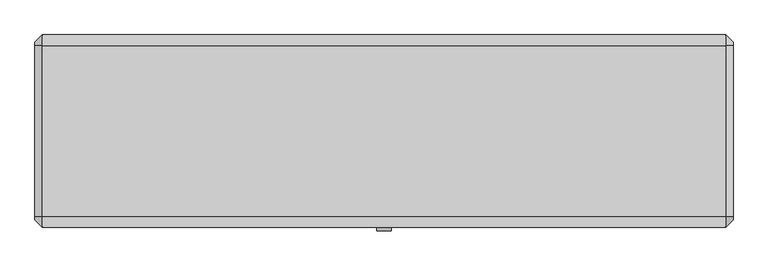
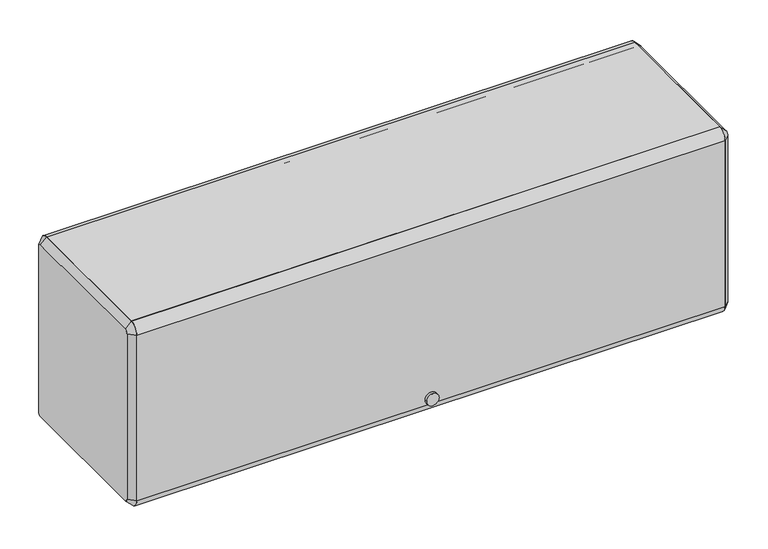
"""IFC4 building model written with IfcOpenShell, lengths in millimetres: furniture geometry."""

from ifc_helpers import new_model, si_unit, point, frame, frame_2d, origin, place, context, project, spatial, polyline, circle_curve, trimmed, segment, composite_curve, outline, extrude, source, transform, mapped, element, save
from ifc_brep_helpers import plane_surface, revolved_surface, advanced_brep


def furniture_23a4858b(model_context):
    return source(origin(), model_context, "Body", "SolidModel", [
        extrude(outline(composite_curve([segment(polyline([(-136.525, 1754.59898), (-136.525, 1767.29898), (161.925, 1767.29898)]), True, "CONTINUOUS"), segment(trimmed(circle_curve(frame_2d((161.925, 1748.24898)), 19.05), [point((161.925, 1767.29898))], [point((180.975, 1748.24898))], False, "CARTESIAN"), True, "CONTINUOUS"), segment(polyline([(180.975, 1748.24898), (168.275, 1748.24898)]), True, "CONTINUOUS"), segment(trimmed(circle_curve(frame_2d((161.925, 1748.24898)), 6.35), [point((168.275, 1748.24898))], [point((161.925, 1754.59898))], True, "CARTESIAN"), True, "CONTINUOUS"), segment(polyline([(161.925, 1754.59898), (-136.525, 1754.59898)]), True, "CONTINUOUS")], self_intersect=False)), frame((-596.9, 0.0, 0.0), z_axis=(1.0, 0.0, 0.0), x_axis=(0.0, 1.0, 0.0)), (0.0, 0.0, 1.0), 1193.8),
        extrude(outline(composite_curve([segment(trimmed(circle_curve(frame_2d((-136.525, 1748.24898)), 19.05), [point((-155.575, 1748.24898))], [point((-136.525, 1767.29898))], False, "CARTESIAN"), True, "CONTINUOUS"), segment(polyline([(-136.525, 1767.29898), (-136.525, 1754.59898)]), True, "CONTINUOUS"), segment(trimmed(circle_curve(frame_2d((-136.525, 1748.24898)), 6.35), [point((-136.525, 1754.59898))], [point((-142.875, 1748.24898))], True, "CARTESIAN"), True, "CONTINUOUS"), segment(polyline([(-142.875, 1748.24898), (-142.875, 1392.64898)]), True, "CONTINUOUS"), segment(trimmed(circle_curve(frame_2d((-136.525, 1392.64898)), 6.35), [point((-142.875, 1392.64898))], [point((-136.525, 1386.29898))], True, "CARTESIAN"), True, "CONTINUOUS"), segment(polyline([(-136.525, 1386.29898), (-136.525, 1373.59898)]), True, "CONTINUOUS"), segment(trimmed(circle_curve(frame_2d((-136.525, 1392.64898)), 19.05), [point((-136.525, 1373.59898))], [point((-155.575, 1392.64898))], False, "CARTESIAN"), True, "CONTINUOUS"), segment(polyline([(-155.575, 1392.64898), (-155.575, 1748.24898)]), True, "CONTINUOUS")], self_intersect=False)), frame((-596.9, 0.0, 0.0), z_axis=(1.0, 0.0, 0.0), x_axis=(0.0, 1.0, 0.0)), (0.0, 0.0, 1.0), 1193.8),
        extrude(outline(composite_curve([segment(trimmed(circle_curve(frame_2d((1405.3108706, 0.0201199)), 12.7253951), [point((1405.3108706, 12.745515))], [point((1405.3108706, -12.7052752))], False, "CARTESIAN"), True, "CONTINUOUS"), segment(trimmed(circle_curve(frame_2d((1405.3108706, 0.0201199)), 12.7253951), [point((1405.3108706, -12.7052752))], [point((1405.3108706, 12.745515))], False, "CARTESIAN"), True, "CONTINUOUS")], self_intersect=False)), frame((0.0, -161.925, 0.0), z_axis=(0.0, 1.0, 0.0), x_axis=(0.0, 0.0, 1.0)), (0.0, 0.0, 1.0), 6.35),
        extrude(outline(polyline([(-136.525, 1411.69898), (161.925, 1411.69898), (161.925, 1449.79898), (174.625, 1449.79898), (174.625, 1446.62398), (165.1, 1446.62398), (165.1, 1408.52398), (-133.35, 1408.52398), (-133.35, 1389.47398), (-136.525, 1389.47398), (-136.525, 1411.69898)])), frame((-596.9, 0.0, 0.0), z_axis=(1.0, 0.0, 0.0), x_axis=(0.0, 1.0, 0.0)), (0.0, 0.0, 1.0), 1193.8),
        advanced_brep(
        [(609.6, 161.925, 1754.59898), (609.6, -136.525, 1754.59898), (609.6, -142.875, 1748.24898), (609.6, -142.875, 1392.64898), (609.6, -136.525, 1386.29898), (609.6, 161.925, 1386.29898), (609.6, 168.275, 1392.64898), (609.6, 168.275, 1748.24898), (596.9, 161.925, 1767.29898), (596.9, 180.975, 1748.24898), (596.9, 180.975, 1392.64898), (596.9, 161.925, 1373.59898), (596.9, -136.525, 1373.59898), (596.9, -155.575, 1392.64898), (596.9, -155.575, 1748.24898), (596.9, -136.525, 1767.29898)],
        [
            (0, 1),
            (1, 2, circle_curve(frame((609.6, -136.525, 1748.24898), z_axis=(1.0, 6.493472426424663e-12, -6.5867311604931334e-12), x_axis=(6.586694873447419e-12, 0.0, 1.0)), 6.35)),
            (2, 3),
            (3, 4, circle_curve(frame((609.6, -136.525, 1392.64898), z_axis=(1.0, 3.3733016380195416e-12, 3.3892888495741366e-12), x_axis=(3.3733436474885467e-12, -1.0, 0.0)), 6.35)),
            (4, 5),
            (5, 6, circle_curve(frame((609.6, 161.925, 1392.64898), z_axis=(1.0, 3.37863070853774e-12, -3.3892888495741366e-12), x_axis=(-3.389358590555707e-12, 0.0, -1.0)), 6.35)),
            (6, 7),
            (7, 0, circle_curve(frame((609.6, 161.925, 1748.24898), z_axis=(1.0, 6.4828142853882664e-12, 6.394884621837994e-12), x_axis=(-6.482754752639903e-12, 1.0, 0.0)), 6.35)),
            (8, 9, circle_curve(frame((596.9, 161.925, 1748.24898), z_axis=(-1.0, -6.4828142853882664e-12, -6.394884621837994e-12), x_axis=(-6.482754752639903e-12, 1.0, 0.0)), 19.05)),
            (9, 10),
            (10, 11, circle_curve(frame((596.9, 161.925, 1392.64898), z_axis=(-1.0, -3.37863070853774e-12, 3.3892888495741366e-12), x_axis=(-3.389358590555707e-12, 0.0, -1.0)), 19.05)),
            (11, 12),
            (12, 13, circle_curve(frame((596.9, -136.525, 1392.64898), z_axis=(-1.0, -3.3733016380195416e-12, -3.3892888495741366e-12), x_axis=(3.3733436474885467e-12, -1.0, 0.0)), 19.05)),
            (13, 14),
            (14, 15, circle_curve(frame((596.9, -136.525, 1748.24898), z_axis=(-1.0, -6.493472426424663e-12, 6.5867311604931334e-12), x_axis=(6.586694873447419e-12, 0.0, 1.0)), 19.05)),
            (15, 8),
            (15, 1),
            (0, 8),
            (14, 2),
            (13, 3),
            (12, 4),
            (11, 5),
            (10, 6),
            (9, 7),
        ],
        [
            plane_surface(frame((609.6, 12.7, 1570.44898), z_axis=(1.0, 0.0, 0.0), x_axis=(0.0, -1.0, 0.0))),
            plane_surface(frame((596.9, 12.7, 1570.44898), z_axis=(-1.0, 0.0, 0.0), x_axis=(0.0, -1.0, 0.0))),
            plane_surface(frame((596.9, 12.7, 1767.29898), z_axis=(0.7071067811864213, 0.0, 0.7071067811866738), x_axis=(0.0, -1.0, 0.0))),
            revolved_surface(polyline([(609.6000000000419, -136.525, 1754.5989799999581), (596.9, -136.525, 1767.29898)]), (615.95, -136.525, 1748.24898), (-1.0, -6.493472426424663e-12, 6.5867311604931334e-12)),
            plane_surface(frame((596.9, -155.575, 1570.44898), z_axis=(0.7071067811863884, -0.7071067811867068, 0.0), x_axis=(0.0, 0.0, -1.0))),
            revolved_surface(polyline([(609.6000000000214, -142.87499999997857, 1392.64898), (596.8999999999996, -155.5750000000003, 1392.64898)]), (615.95, -136.525, 1392.64898), (-1.0, -3.3733016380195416e-12, -3.3892888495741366e-12)),
            plane_surface(frame((596.9, 12.7, 1373.59898), z_axis=(0.7071067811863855, 0.0, -0.7071067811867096), x_axis=(0.0, 1.0, 0.0))),
            revolved_surface(polyline([(609.6, 161.925, 1386.29898), (596.8999999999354, 161.925, 1373.5989799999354)]), (615.95, 161.925, 1392.64898), (-1.0, -3.37863070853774e-12, 3.3892888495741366e-12)),
            plane_surface(frame((596.9, 180.975, 1570.44898), z_axis=(0.7071067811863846, 0.7071067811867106, 0.0), x_axis=(0.0, 0.0, 1.0))),
            revolved_surface(polyline([(609.6, 168.275, 1748.24898), (596.8999999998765, 180.9750000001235, 1748.24898)]), (615.95, 161.925, 1748.24898), (-1.0, -6.4828142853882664e-12, -6.394884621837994e-12)),
        ],
        [
            (0, [[1, 2, 3, 4, 5, 6, 7, 8]]),
            (1, [[9, 10, 11, 12, 13, 14, 15, 16]]),
            (2, [[-16, 17, -1, 18]]),
            (3, [[-15, 19, -2, -17]]),
            (4, [[-14, 20, -3, -19]]),
            (5, [[-13, 21, -4, -20]]),
            (6, [[-12, 22, -5, -21]]),
            (7, [[-11, 23, -6, -22]]),
            (8, [[-10, 24, -7, -23]]),
            (9, [[-9, -18, -8, -24]]),
        ],
    ),
        advanced_brep(
        [(-609.6, -136.525, 1754.59898), (-609.6, 161.925, 1754.59898), (-609.6, 168.275, 1748.24898), (-609.6, 168.275, 1392.64898), (-609.6, 161.925, 1386.29898), (-609.6, -136.525, 1386.29898), (-609.6, -142.875, 1392.64898), (-609.6, -142.875, 1748.24898), (-596.9, -136.525, 1767.29898), (-596.9, -155.575, 1748.24898), (-596.9, -155.575, 1392.64898), (-596.9, -136.525, 1373.59898), (-596.9, 161.925, 1373.59898), (-596.9, 180.975, 1392.64898), (-596.9, 180.975, 1748.24898), (-596.9, 161.925, 1767.29898)],
        [
            (0, 1),
            (1, 2, circle_curve(frame((-609.6, 161.925, 1748.24898), z_axis=(-1.0, 3.365308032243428e-12, 3.4319214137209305e-12), x_axis=(3.4319080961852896e-12, 0.0, 1.0)), 6.35)),
            (2, 3),
            (3, 4, circle_curve(frame((-609.6, 161.925, 1392.64898), z_axis=(-1.0, 0.0, 0.0), x_axis=(0.0, 1.0, 0.0)), 6.35)),
            (4, 5),
            (5, 6, circle_curve(frame((-609.6, -136.525, 1392.64898), z_axis=(-1.0, 0.0, 0.0), x_axis=(0.0, 0.0, -1.0)), 6.35)),
            (6, 7),
            (7, 0, circle_curve(frame((-609.6, -136.525, 1748.24898), z_axis=(-1.0, 3.381295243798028e-12, -3.3040237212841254e-12), x_axis=(-3.3813511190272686e-12, -1.0, 0.0)), 6.35)),
            (8, 9, circle_curve(frame((-596.9, -136.525, 1748.24898), z_axis=(1.0, -3.381295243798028e-12, 3.3040237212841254e-12), x_axis=(-3.3813511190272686e-12, -1.0, 0.0)), 19.05)),
            (9, 10),
            (10, 11, circle_curve(frame((-596.9, -136.525, 1392.64898), z_axis=(1.0, 0.0, 0.0), x_axis=(0.0, 0.0, -1.0)), 19.05)),
            (11, 12),
            (12, 13, circle_curve(frame((-596.9, 161.925, 1392.64898), z_axis=(1.0, 0.0, 0.0), x_axis=(0.0, 1.0, 0.0)), 19.05)),
            (13, 14),
            (14, 15, circle_curve(frame((-596.9, 161.925, 1748.24898), z_axis=(1.0, -3.365308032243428e-12, -3.4319214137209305e-12), x_axis=(3.4319080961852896e-12, 0.0, 1.0)), 19.05)),
            (15, 8),
            (15, 1),
            (0, 8),
            (14, 2),
            (13, 3),
            (12, 4),
            (11, 5),
            (10, 6),
            (9, 7),
        ],
        [
            plane_surface(frame((-609.6, 12.7, 1570.44898), z_axis=(-1.0, 0.0, 0.0), x_axis=(0.0, -1.0, 0.0))),
            plane_surface(frame((-596.9, 12.7, 1570.44898), z_axis=(1.0, 0.0, 0.0), x_axis=(0.0, -1.0, 0.0))),
            plane_surface(frame((-596.9, 12.7, 1767.29898), z_axis=(-0.7071067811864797, 0.0, 0.7071067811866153), x_axis=(0.0, 1.0, 0.0))),
            revolved_surface(polyline([(-609.6, 161.925, 1754.59898), (-596.8999999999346, 161.925, 1767.2989800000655)]), (-615.95, 161.925, 1748.24898), (1.0, -3.365308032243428e-12, -3.4319214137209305e-12)),
            plane_surface(frame((-596.9, 180.975, 1570.44898), z_axis=(-0.7071067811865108, 0.7071067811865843, 0.0), x_axis=(0.0, 0.0, -1.0))),
            revolved_surface(polyline([(-609.6, 168.275, 1392.64898), (-596.9, 180.975, 1392.64898)]), (-615.95, 161.925, 1392.64898), (1.0, 0.0, 0.0)),
            plane_surface(frame((-596.9, 12.7, 1373.59898), z_axis=(-0.7071067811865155, 0.0, -0.7071067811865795), x_axis=(0.0, -1.0, 0.0))),
            revolved_surface(polyline([(-609.6, -136.525, 1386.29898), (-596.9, -136.525, 1373.59898)]), (-615.95, -136.525, 1392.64898), (1.0, 0.0, 0.0)),
            plane_surface(frame((-596.9, -155.575, 1570.44898), z_axis=(-0.7071067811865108, -0.7071067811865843, 0.0), x_axis=(0.0, 0.0, 1.0))),
            revolved_surface(polyline([(-609.6000000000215, -142.87499999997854, 1748.24898), (-596.9, -155.575, 1748.24898)]), (-615.95, -136.525, 1748.24898), (1.0, -3.381295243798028e-12, 3.3040237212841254e-12)),
        ],
        [
            (0, [[1, 2, 3, 4, 5, 6, 7, 8]]),
            (1, [[9, 10, 11, 12, 13, 14, 15, 16]]),
            (2, [[-16, 17, -1, 18]]),
            (3, [[-15, 19, -2, -17]]),
            (4, [[-14, 20, -3, -19]]),
            (5, [[-13, 21, -4, -20]]),
            (6, [[-12, 22, -5, -21]]),
            (7, [[-11, 23, -6, -22]]),
            (8, [[-10, 24, -7, -23]]),
            (9, [[-9, -18, -8, -24]]),
        ],
    ),
    ])


if __name__ == "__main__":
    model = new_model("IFC4")
    model_context = context("Model", 3, world=origin())
    ifc_project = project(units=[si_unit("LENGTHUNIT", "METRE", prefix="MILLI")], contexts=[model_context])
    site = spatial("IfcSite", under=ifc_project)
    building = spatial("IfcBuilding", under=site)
    placement = place(None, origin())
    furniture_shape = furniture_23a4858b(model_context)
    element("IfcFurniture", 1, ObjectType="HermanMiller_ActionOffice_A3352_B-StyleFlipperDoorUnit : 15 1/2\"H x 13\"D x 48\"W", at=placement, inside=building, context=model_context, shape_type="MappedRepresentation", body=[
        mapped(furniture_shape, transform((0.0, 0.0, 0.0), x_axis=(1.0, 0.0, 0.0), y_axis=(0.0, 1.0, 0.0), z_axis=(0.0, 0.0, 1.0))),
    ])
    save(model, "model.ifc")
